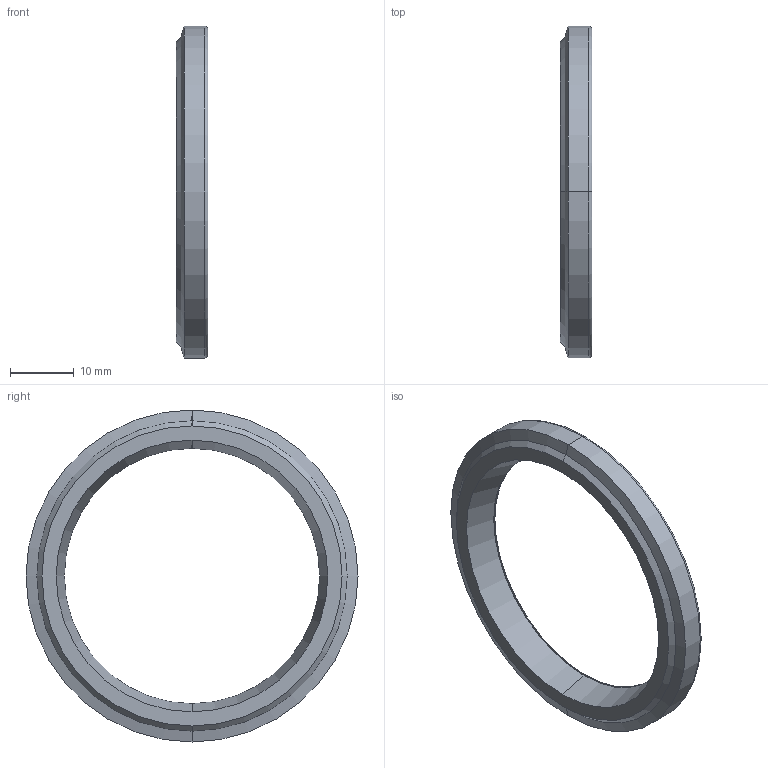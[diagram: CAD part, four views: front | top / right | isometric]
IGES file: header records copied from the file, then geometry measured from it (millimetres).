
Start section: 3D InterOp IGES (Version 21 0 1), Spatial Corp. Copyright (c) 1999-2007.
Global section: file name: CBX-40.igs; native system: Spatial Corp.; preprocessor: 3D InterOp GENERIC/IGES 3.0; author: Noname; organization: Noname; date: 20220217.162042; units: millimetre
Bounding box: 5 x 52 x 52 mm (x, y, z)
Surface area: 3043.6 mm2 (no closed solid volume)
Topology: 0 solids, 0 shells, 20 faces, 80 edges, 80 vertices
Faces by surface type: revolution 16, extrusion 4
